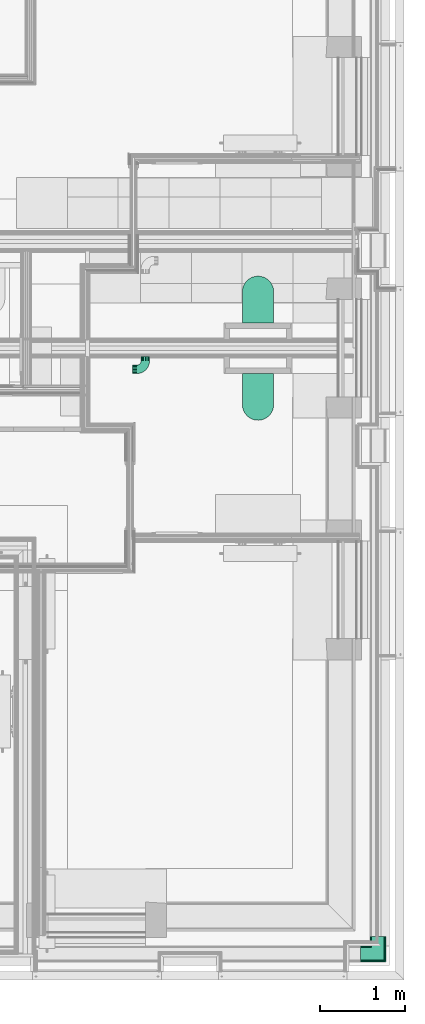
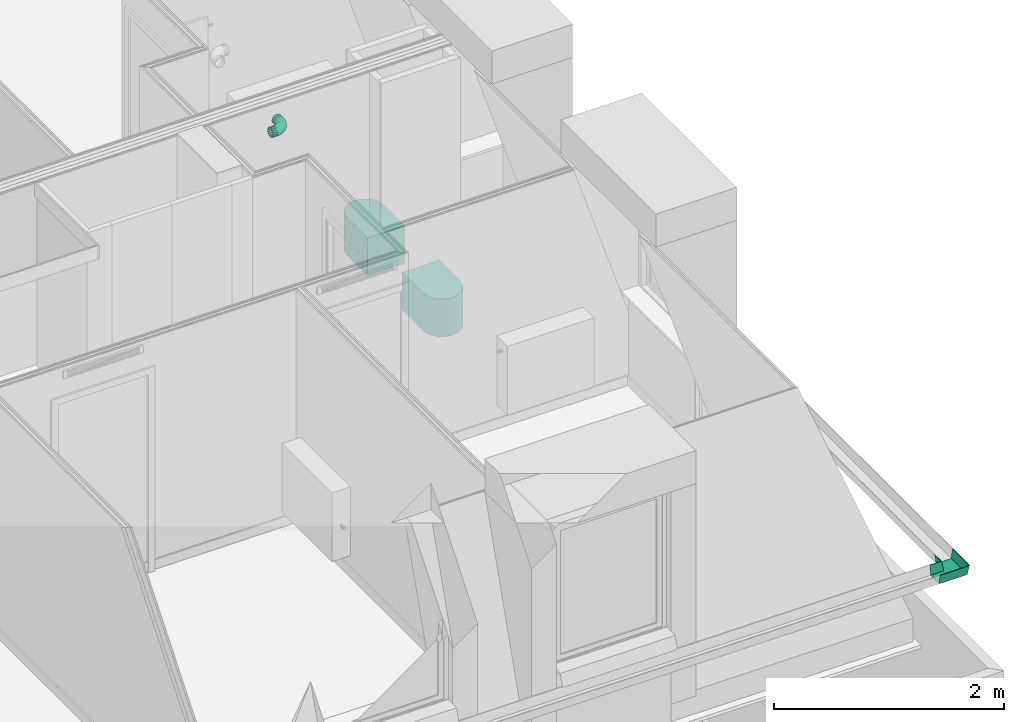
# One storey, part 161 of 169: 2 flow fittings, 2 flow terminals.
"""IFC2X3 building model written with IfcOpenShell, lengths in metres."""

from ifc_helpers import new_model, entity, si_unit, converted_unit, derived_unit, money_unit, direction, frame, origin_with_axes, place, context, subcontext, project, spatial, open_shell, faceted_brep, surface_model, material, type_object, element, save


model = new_model("IFC2X3")

# Units and contexts
model_context = context("Model", 3, precision=1e-05, world=origin_with_axes(), true_north=direction((0.0, 1.0)))
body_context = subcontext(model_context, "Body", "Model", "MODEL_VIEW", scale=1.0)
ifc_project = project(units=[si_unit("LENGTHUNIT", "METRE"), si_unit("AREAUNIT", "SQUARE_METRE"), si_unit("VOLUMEUNIT", "CUBIC_METRE"), si_unit("ABSORBEDDOSEUNIT", "GRAY"), si_unit("AMOUNTOFSUBSTANCEUNIT", "MOLE"), si_unit("DOSEEQUIVALENTUNIT", "SIEVERT"), si_unit("ELECTRICCAPACITANCEUNIT", "FARAD"), si_unit("ELECTRICCHARGEUNIT", "COULOMB"), si_unit("ELECTRICCONDUCTANCEUNIT", "SIEMENS"), si_unit("ELECTRICCURRENTUNIT", "AMPERE"), si_unit("ELECTRICRESISTANCEUNIT", "OHM"), si_unit("ELECTRICVOLTAGEUNIT", "VOLT"), si_unit("ENERGYUNIT", "JOULE"), si_unit("FORCEUNIT", "NEWTON"), si_unit("FREQUENCYUNIT", "HERTZ"), si_unit("ILLUMINANCEUNIT", "LUX"), si_unit("INDUCTANCEUNIT", "HENRY"), si_unit("LUMINOUSFLUXUNIT", "LUMEN"), si_unit("LUMINOUSINTENSITYUNIT", "CANDELA"), si_unit("MAGNETICFLUXDENSITYUNIT", "TESLA"), si_unit("MAGNETICFLUXUNIT", "WEBER"), si_unit("MASSUNIT", "GRAM"), converted_unit("PLANEANGLEUNIT", "degree", entity("IfcReal", 0.0174532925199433), si_unit("PLANEANGLEUNIT", "RADIAN"), dimensions=[0, 0, 0, 0, 0, 0, 0]), si_unit("POWERUNIT", "WATT"), si_unit("PRESSUREUNIT", "PASCAL"), si_unit("RADIOACTIVITYUNIT", "BECQUEREL"), si_unit("SOLIDANGLEUNIT", "STERADIAN"), si_unit("THERMODYNAMICTEMPERATUREUNIT", "KELVIN"), si_unit("TIMEUNIT", "SECOND"), derived_unit("ACCELERATIONUNIT", [(si_unit("LENGTHUNIT", "METRE"), 1), (si_unit("TIMEUNIT", "SECOND"), -2)]), derived_unit("ANGULARVELOCITYUNIT", [(converted_unit("PLANEANGLEUNIT", "degree", entity("IfcReal", 0.0174532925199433), si_unit("PLANEANGLEUNIT", "RADIAN"), dimensions=[0, 0, 0, 0, 0, 0, 0]), 1), (si_unit("TIMEUNIT", "SECOND"), -1)]), derived_unit("CURVATUREUNIT", [(converted_unit("PLANEANGLEUNIT", "degree", entity("IfcReal", 0.0174532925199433), si_unit("PLANEANGLEUNIT", "RADIAN"), dimensions=[0, 0, 0, 0, 0, 0, 0]), 1), (si_unit("LENGTHUNIT", "METRE"), -1)]), derived_unit("DYNAMICVISCOSITYUNIT", [(si_unit("PRESSUREUNIT", "PASCAL"), 1), (si_unit("TIMEUNIT", "SECOND"), 1)]), derived_unit("HEATFLUXDENSITYUNIT", [(si_unit("POWERUNIT", "WATT"), 1), (si_unit("LENGTHUNIT", "METRE"), -2)]), derived_unit("HEATINGVALUEUNIT", [(si_unit("ENERGYUNIT", "JOULE"), 1), (si_unit("MASSUNIT", "GRAM"), -1)]), derived_unit("INTEGERCOUNTRATEUNIT", [(si_unit("TIMEUNIT", "SECOND"), -1)]), derived_unit("IONCONCENTRATIONUNIT", [(si_unit("MASSUNIT", "GRAM"), 1), (si_unit("VOLUMEUNIT", "CUBIC_METRE"), -1)]), derived_unit("ISOTHERMALMOISTURECAPACITYUNIT", [(si_unit("VOLUMEUNIT", "CUBIC_METRE"), 1), (si_unit("MASSUNIT", "GRAM"), -1)]), derived_unit("KINEMATICVISCOSITYUNIT", [(si_unit("AREAUNIT", "SQUARE_METRE"), 1), (si_unit("TIMEUNIT", "SECOND"), -1)]), derived_unit("LINEARFORCEUNIT", [(si_unit("FORCEUNIT", "NEWTON"), 1), (si_unit("LENGTHUNIT", "METRE"), -1)]), derived_unit("LINEARMOMENTUNIT", [(si_unit("FORCEUNIT", "NEWTON"), 1), (si_unit("LENGTHUNIT", "METRE"), -1)]), derived_unit("LINEARSTIFFNESSUNIT", [(si_unit("FORCEUNIT", "NEWTON"), 1), (si_unit("LENGTHUNIT", "METRE"), -1)]), derived_unit("LINEARVELOCITYUNIT", [(si_unit("LENGTHUNIT", "METRE"), 1), (si_unit("TIMEUNIT", "SECOND"), -1)]), derived_unit("LUMINOUSINTENSITYDISTRIBUTIONUNIT", [(si_unit("LUMINOUSINTENSITYUNIT", "CANDELA"), 1), (si_unit("LUMINOUSFLUXUNIT", "LUMEN"), -1)]), derived_unit("MASSDENSITYUNIT", [(si_unit("MASSUNIT", "GRAM"), 1), (si_unit("VOLUMEUNIT", "CUBIC_METRE"), -1)]), derived_unit("MASSFLOWRATEUNIT", [(si_unit("MASSUNIT", "GRAM"), 1), (si_unit("TIMEUNIT", "SECOND"), -1)]), derived_unit("MASSPERLENGTHUNIT", [(si_unit("MASSUNIT", "GRAM"), 1), (si_unit("LENGTHUNIT", "METRE"), -1)]), derived_unit("MODULUSOFELASTICITYUNIT", [(si_unit("FORCEUNIT", "NEWTON"), 1), (si_unit("AREAUNIT", "SQUARE_METRE"), -1)]), derived_unit("MODULUSOFLINEARSUBGRADEREACTIONUNIT", [(si_unit("FORCEUNIT", "NEWTON"), 1), (si_unit("LENGTHUNIT", "METRE"), -2)]), derived_unit("MODULUSOFROTATIONALSUBGRADEREACTIONUNIT", [(si_unit("FORCEUNIT", "NEWTON"), 1), (si_unit("LENGTHUNIT", "METRE"), 1)]), derived_unit("MODULUSOFSUBGRADEREACTIONUNIT", [(si_unit("FORCEUNIT", "NEWTON"), 1), (si_unit("VOLUMEUNIT", "CUBIC_METRE"), -1)]), derived_unit("MOISTUREDIFFUSIVITYUNIT", [(si_unit("VOLUMEUNIT", "CUBIC_METRE"), 1), (si_unit("TIMEUNIT", "SECOND"), -1)]), derived_unit("MOLECULARWEIGHTUNIT", [(si_unit("MASSUNIT", "GRAM"), 1), (si_unit("AMOUNTOFSUBSTANCEUNIT", "MOLE"), -1)]), derived_unit("PLANARFORCEUNIT", [(si_unit("FORCEUNIT", "NEWTON"), 1), (si_unit("LENGTHUNIT", "METRE"), -2)]), derived_unit("ROTATIONALFREQUENCYUNIT", [(si_unit("TIMEUNIT", "SECOND"), -1)]), derived_unit("ROTATIONALMASSUNIT", [(si_unit("MASSUNIT", "GRAM"), 1), (si_unit("LENGTHUNIT", "METRE"), 2)]), derived_unit("ROTATIONALSTIFFNESSUNIT", [(si_unit("FORCEUNIT", "NEWTON"), 1), (si_unit("LENGTHUNIT", "METRE"), 1), (converted_unit("PLANEANGLEUNIT", "degree", entity("IfcReal", 0.0174532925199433), si_unit("PLANEANGLEUNIT", "RADIAN"), dimensions=[0, 0, 0, 0, 0, 0, 0]), -1)]), derived_unit("SECTIONAREAINTEGRALUNIT", [(si_unit("LENGTHUNIT", "METRE"), 5)]), derived_unit("SECTIONMODULUSUNIT", [(si_unit("LENGTHUNIT", "METRE"), 3)]), derived_unit("SHEARMODULUSUNIT", [(si_unit("FORCEUNIT", "NEWTON"), 1), (si_unit("AREAUNIT", "SQUARE_METRE"), -1)]), derived_unit("SOUNDPOWERUNIT", [(si_unit("ENERGYUNIT", "JOULE"), 1), (si_unit("TIMEUNIT", "SECOND"), -1)]), derived_unit("SPECIFICHEATCAPACITYUNIT", [(si_unit("FORCEUNIT", "NEWTON"), 1), (si_unit("MASSUNIT", "GRAM"), -1), (si_unit("THERMODYNAMICTEMPERATUREUNIT", "KELVIN"), -1)]), derived_unit("TEMPERATUREGRADIENTUNIT", [(si_unit("THERMODYNAMICTEMPERATUREUNIT", "KELVIN"), 1), (si_unit("LENGTHUNIT", "METRE"), -1)]), derived_unit("THERMALADMITTANCEUNIT", [(si_unit("POWERUNIT", "WATT"), 1), (si_unit("AREAUNIT", "SQUARE_METRE"), -1), (si_unit("THERMODYNAMICTEMPERATUREUNIT", "KELVIN"), -1)]), derived_unit("THERMALCONDUCTANCEUNIT", [(si_unit("POWERUNIT", "WATT"), 1), (si_unit("LENGTHUNIT", "METRE"), -1), (si_unit("THERMODYNAMICTEMPERATUREUNIT", "KELVIN"), -1)]), derived_unit("THERMALEXPANSIONCOEFFICIENTUNIT", [(si_unit("THERMODYNAMICTEMPERATUREUNIT", "KELVIN"), -1)]), derived_unit("THERMALRESISTANCEUNIT", [(si_unit("AREAUNIT", "SQUARE_METRE"), 1), (si_unit("POWERUNIT", "WATT"), -1)]), derived_unit("THERMALTRANSMITTANCEUNIT", [(si_unit("POWERUNIT", "WATT"), 1), (si_unit("AREAUNIT", "SQUARE_METRE"), -1), (si_unit("THERMODYNAMICTEMPERATUREUNIT", "KELVIN"), -1)]), derived_unit("TORQUEUNIT", [(si_unit("FORCEUNIT", "NEWTON"), 1), (si_unit("LENGTHUNIT", "METRE"), 1)]), derived_unit("VAPORPERMEABILITYUNIT", [(si_unit("MASSUNIT", "GRAM"), 1), (si_unit("TIMEUNIT", "SECOND"), -1)]), derived_unit("VOLUMETRICFLOWRATEUNIT", [(si_unit("VOLUMEUNIT", "CUBIC_METRE"), 1), (si_unit("TIMEUNIT", "SECOND"), -1)]), derived_unit("WARPINGCONSTANTUNIT", [(si_unit("LENGTHUNIT", "METRE"), 6)]), derived_unit("WARPINGMOMENTUNIT", [(si_unit("FORCEUNIT", "NEWTON"), 1), (si_unit("LENGTHUNIT", "METRE"), 2)]), money_unit("GBP")], contexts=[model_context])

# Site, building, storey, space
site_placement = place(None, origin_with_axes())
site = spatial("IfcSite", under=ifc_project, at=site_placement, Name="Site", CompositionType="ELEMENT")
building_placement = place(site_placement, origin_with_axes())
building = spatial("IfcBuilding", under=site, at=building_placement, Name="Building01", CompositionType="ELEMENT")
storey_placement = place(building_placement, frame((0.0, 0.0, 5.15), z_axis=(0.0, 0.0, 1.0), x_axis=(1.0, 0.0, 0.0)))
storey = spatial("IfcBuildingStorey", under=building, at=storey_placement, Name="1F", CompositionType="ELEMENT", Elevation=5.15)
space_1_placement = place(storey_placement, frame((23.258821, 7.349915, 9.86), z_axis=(0.0, 0.0, 1.0), x_axis=(0.0, -1.0, 0.0)))
space_1 = spatial("IfcSpace", under=storey, at=space_1_placement, Name="bath", CompositionType="ELEMENT", InteriorOrExteriorSpace="NOTDEFINED")

# Flow fittings
ifc_material_1 = material(Name="M_BSUK_Ventilation")
duct_fitting_type = type_object("IfcDuctFittingType", Name="M-Roundelbow-DefaultRound", PredefinedType="BEND")
placement = place(building_placement, origin_with_axes())
flow_fitting_1_placement = place(placement, frame((23.93, 7.299939, 17.28), z_axis=(1.0, 0.0, 0.0), x_axis=(0.0, -1.0, 0.0)))
element("IfcFlowFitting", 1, at=flow_fitting_1_placement, inside=space_1, type_object=duct_fitting_type, material=ifc_material_1, Name="M-Roundelbow-DefaultRound", ObjectType="M-Roundelbow-DefaultRound", context=body_context, shape_type="SurfaceModel", body=[
    surface_model("IfcShellBasedSurfaceModel", [(0.008112, -0.01349, -0.048784), (0.0, -0.01349, -0.048146), (0.0, 0.0, -0.05), (0.007822, 0.0, -0.050616), (0.016024, -0.01349, -0.050684), (0.015451, 0.0, -0.052447), (0.023541, -0.01349, -0.053798), (0.0227, 0.0, -0.05545), (0.030479, -0.01349, -0.058049), (0.029389, 0.0, -0.059549), (0.036666, -0.01349, -0.063334), (0.035355, 0.0, -0.064645), (0.041951, -0.01349, -0.069521), (0.040451, 0.0, -0.070611), (0.046202, -0.01349, -0.076459), (0.04455, 0.0, -0.0773), (0.049316, -0.01349, -0.083976), (0.047553, 0.0, -0.084549), (0.051216, -0.01349, -0.091888), (0.049384, 0.0, -0.092178), (0.051854, -0.01349, -0.1), (0.05, 0.0, -0.1), (0.00896, -0.025979, -0.043426), (0.0, -0.025979, -0.042721), (0.0177, -0.025979, -0.045524), (0.026004, -0.025979, -0.048964), (0.033668, -0.025979, -0.05366), (0.040502, -0.025979, -0.059498), (0.04634, -0.025979, -0.066332), (0.051036, -0.025979, -0.073996), (0.054476, -0.025979, -0.0823), (0.056574, -0.025979, -0.09104), (0.057279, -0.025979, -0.1), (0.010305, -0.036542, -0.034939), (0.0, -0.036542, -0.034128), (0.020356, -0.036542, -0.037352), (0.029905, -0.036542, -0.041307), (0.038719, -0.036542, -0.046708), (0.046579, -0.036542, -0.053421), (0.053292, -0.036542, -0.061281), (0.058693, -0.036542, -0.070095), (0.062648, -0.036542, -0.079644), (0.065061, -0.036542, -0.089695), (0.065872, -0.036542, -0.1), (0.012045, -0.044394, -0.023951), (0.0, -0.044394, -0.023003), (0.023793, -0.044394, -0.026772), (0.034956, -0.044394, -0.031395), (0.045258, -0.044394, -0.037708), (0.054445, -0.044394, -0.045555), (0.062292, -0.044394, -0.054742), (0.068605, -0.044394, -0.065044), (0.073228, -0.044394, -0.076207), (0.076049, -0.044394, -0.087955), (0.076997, -0.044394, -0.1), (0.014052, -0.048954, -0.011279), (0.0, -0.048954, -0.010173), (0.027758, -0.048954, -0.014569), (0.040781, -0.048954, -0.019963), (0.052799, -0.048954, -0.027328), (0.063517, -0.048954, -0.036483), (0.072672, -0.048954, -0.047201), (0.080037, -0.048954, -0.059219), (0.085431, -0.048954, -0.072242), (0.088721, -0.048954, -0.085948), (0.089827, -0.048954, -0.1), (0.016177, -0.049883, 0.002139), (0.0, -0.049883, 0.003412), (0.031956, -0.049883, -0.001649), (0.046948, -0.049883, -0.007859), (0.060784, -0.049883, -0.016338), (0.073123, -0.049883, -0.026877), (0.083662, -0.049883, -0.039216), (0.092141, -0.049883, -0.053052), (0.098351, -0.049883, -0.068044), (0.102139, -0.049883, -0.083823), (0.103412, -0.049883, -0.1), (0.018263, -0.047113, 0.015307), (0.0, -0.047113, 0.016744), (0.036076, -0.047113, 0.01103), (0.053001, -0.047113, 0.00402), (0.06862, -0.047113, -0.005552), (0.08255, -0.047113, -0.01745), (0.094448, -0.047113, -0.03138), (0.10402, -0.047113, -0.046999), (0.11103, -0.047113, -0.063924), (0.115307, -0.047113, -0.081737), (0.116744, -0.047113, -0.1), (0.020154, -0.040848, 0.027248), (0.0, -0.040848, 0.028834), (0.039812, -0.040848, 0.022528), (0.058489, -0.040848, 0.014792), (0.075727, -0.040848, 0.004229), (0.091099, -0.040848, -0.008901), (0.104229, -0.040848, -0.024273), (0.114792, -0.040848, -0.041511), (0.122528, -0.040848, -0.060188), (0.127248, -0.040848, -0.079846), (0.128834, -0.040848, -0.1), (0.021711, -0.031554, 0.037077), (0.0, -0.031554, 0.038786), (0.042887, -0.031554, 0.031993), (0.063007, -0.031554, 0.023659), (0.081576, -0.031554, 0.01228), (0.098136, -0.031554, -0.001864), (0.11228, -0.031554, -0.018424), (0.123659, -0.031554, -0.036993), (0.131993, -0.031554, -0.057113), (0.137077, -0.031554, -0.078289), (0.138786, -0.031554, -0.1), (0.022818, -0.01992, 0.044065), (0.0, -0.01992, 0.045861), (0.045073, -0.01992, 0.038722), (0.066219, -0.01992, 0.029963), (0.085735, -0.01992, 0.018004), (0.103139, -0.01992, 0.003139), (0.118004, -0.01992, -0.014265), (0.129963, -0.01992, -0.033781), (0.138722, -0.01992, -0.054927), (0.144065, -0.01992, -0.077182), (0.145861, -0.01992, -0.1), (0.023392, -0.006808, 0.047693), (0.0, -0.006808, 0.049534), (0.046209, -0.006808, 0.042216), (0.067887, -0.006808, 0.033236), (0.087894, -0.006808, 0.020976), (0.105737, -0.006808, 0.005737), (0.120976, -0.006808, -0.012106), (0.133236, -0.006808, -0.032113), (0.142216, -0.006808, -0.053791), (0.147693, -0.006808, -0.076608), (0.149534, -0.006808, -0.1), (0.023392, 0.006808, 0.047693), (0.0, 0.006808, 0.049534), (0.046209, 0.006808, 0.042216), (0.067887, 0.006808, 0.033236), (0.087894, 0.006808, 0.020976), (0.105737, 0.006808, 0.005737), (0.120976, 0.006808, -0.012106), (0.133236, 0.006808, -0.032113), (0.142216, 0.006808, -0.053791), (0.147693, 0.006808, -0.076608), (0.149534, 0.006808, -0.1), (0.022818, 0.01992, 0.044065), (0.0, 0.01992, 0.045861), (0.045073, 0.01992, 0.038722), (0.066219, 0.01992, 0.029963), (0.085735, 0.01992, 0.018004), (0.103139, 0.01992, 0.003139), (0.118004, 0.01992, -0.014265), (0.129963, 0.01992, -0.033781), (0.138722, 0.01992, -0.054927), (0.144065, 0.01992, -0.077182), (0.145861, 0.01992, -0.1), (0.021711, 0.031554, 0.037077), (0.0, 0.031554, 0.038786), (0.042887, 0.031554, 0.031993), (0.063007, 0.031554, 0.023659), (0.081576, 0.031554, 0.01228), (0.098136, 0.031554, -0.001864), (0.11228, 0.031554, -0.018424), (0.123659, 0.031554, -0.036993), (0.131993, 0.031554, -0.057113), (0.137077, 0.031554, -0.078289), (0.138786, 0.031554, -0.1), (0.020154, 0.040848, 0.027248), (0.0, 0.040848, 0.028834), (0.039812, 0.040848, 0.022528), (0.058489, 0.040848, 0.014792), (0.075727, 0.040848, 0.004229), (0.091099, 0.040848, -0.008901), (0.104229, 0.040848, -0.024273), (0.114792, 0.040848, -0.041511), (0.122528, 0.040848, -0.060188), (0.127248, 0.040848, -0.079846), (0.128834, 0.040848, -0.1), (0.018263, 0.047113, 0.015307), (0.0, 0.047113, 0.016744), (0.036076, 0.047113, 0.01103), (0.053001, 0.047113, 0.00402), (0.06862, 0.047113, -0.005552), (0.08255, 0.047113, -0.01745), (0.094448, 0.047113, -0.03138), (0.10402, 0.047113, -0.046999), (0.11103, 0.047113, -0.063924), (0.115307, 0.047113, -0.081737), (0.116744, 0.047113, -0.1), (0.016177, 0.049883, 0.002139), (0.0, 0.049883, 0.003412), (0.031956, 0.049883, -0.001649), (0.046948, 0.049883, -0.007859), (0.060784, 0.049883, -0.016338), (0.073123, 0.049883, -0.026877), (0.083662, 0.049883, -0.039216), (0.092141, 0.049883, -0.053052), (0.098351, 0.049883, -0.068044), (0.102139, 0.049883, -0.083823), (0.103412, 0.049883, -0.1), (0.014052, 0.048954, -0.011279), (0.0, 0.048954, -0.010173), (0.027758, 0.048954, -0.014569), (0.040781, 0.048954, -0.019963), (0.052799, 0.048954, -0.027328), (0.063517, 0.048954, -0.036483), (0.072672, 0.048954, -0.047201), (0.080037, 0.048954, -0.059219), (0.085431, 0.048954, -0.072242), (0.088721, 0.048954, -0.085948), (0.089827, 0.048954, -0.1), (0.012045, 0.044394, -0.023951), (0.0, 0.044394, -0.023003), (0.023793, 0.044394, -0.026772), (0.034956, 0.044394, -0.031395), (0.045258, 0.044394, -0.037708), (0.054445, 0.044394, -0.045555), (0.062292, 0.044394, -0.054742), (0.068605, 0.044394, -0.065044), (0.073228, 0.044394, -0.076207), (0.076049, 0.044394, -0.087955), (0.076997, 0.044394, -0.1), (0.010305, 0.036542, -0.034939), (0.0, 0.036542, -0.034128), (0.020356, 0.036542, -0.037352), (0.029905, 0.036542, -0.041307), (0.038719, 0.036542, -0.046708), (0.046579, 0.036542, -0.053421), (0.053292, 0.036542, -0.061281), (0.058693, 0.036542, -0.070095), (0.062648, 0.036542, -0.079644), (0.065061, 0.036542, -0.089695), (0.065872, 0.036542, -0.1), (0.00896, 0.025979, -0.043426), (0.0, 0.025979, -0.042721), (0.0177, 0.025979, -0.045524), (0.026004, 0.025979, -0.048964), (0.033668, 0.025979, -0.05366), (0.040502, 0.025979, -0.059498), (0.04634, 0.025979, -0.066332), (0.051036, 0.025979, -0.073996), (0.054476, 0.025979, -0.0823), (0.056574, 0.025979, -0.09104), (0.057279, 0.025979, -0.1), (0.008112, 0.01349, -0.048784), (0.0, 0.01349, -0.048146), (0.016024, 0.01349, -0.050684), (0.023541, 0.01349, -0.053798), (0.030479, 0.01349, -0.058049), (0.036666, 0.01349, -0.063334), (0.041951, 0.01349, -0.069521), (0.046202, 0.01349, -0.076459), (0.049316, 0.01349, -0.083976), (0.051216, 0.01349, -0.091888), (0.051854, 0.01349, -0.1), (-0.05, 0.0, -0.05), (0.0, -0.019134, -0.046194), (-0.05, -0.019134, -0.046194), (0.0, -0.035355, -0.035355), (-0.05, -0.035355, -0.035355), (0.0, -0.046194, -0.019134), (-0.05, -0.046194, -0.019134), (0.0, -0.05, 0.0), (-0.05, -0.05, 0.0), (0.0, -0.046194, 0.019134), (-0.05, -0.046194, 0.019134), (0.0, -0.035355, 0.035355), (-0.05, -0.035355, 0.035355), (0.0, -0.019134, 0.046194), (-0.05, -0.019134, 0.046194), (0.0, 0.0, 0.05), (-0.05, 0.0, 0.05), (0.0, 0.019134, 0.046194), (-0.05, 0.019134, 0.046194), (0.0, 0.035355, 0.035355), (-0.05, 0.035355, 0.035355), (0.0, 0.046194, 0.019134), (-0.05, 0.046194, 0.019134), (0.0, 0.05, 0.0), (-0.05, 0.05, 0.0), (0.0, 0.046194, -0.019134), (-0.05, 0.046194, -0.019134), (0.0, 0.035355, -0.035355), (-0.05, 0.035355, -0.035355), (0.0, 0.019134, -0.046194), (-0.05, 0.019134, -0.046194), (0.05, 0.0, -0.15), (0.053806, 0.019134, -0.1), (0.053806, 0.019134, -0.15), (0.064645, 0.035355, -0.1), (0.064645, 0.035355, -0.15), (0.080866, 0.046194, -0.1), (0.080866, 0.046194, -0.15), (0.1, 0.05, -0.1), (0.1, 0.05, -0.15), (0.119134, 0.046194, -0.1), (0.119134, 0.046194, -0.15), (0.135355, 0.035355, -0.1), (0.135355, 0.035355, -0.15), (0.146194, 0.019134, -0.1), (0.146194, 0.019134, -0.15), (0.15, 0.0, -0.1), (0.15, 0.0, -0.15), (0.146194, -0.019134, -0.1), (0.146194, -0.019134, -0.15), (0.135355, -0.035355, -0.1), (0.135355, -0.035355, -0.15), (0.119134, -0.046194, -0.1), (0.119134, -0.046194, -0.15), (0.1, -0.05, -0.1), (0.1, -0.05, -0.15), (0.080866, -0.046194, -0.1), (0.080866, -0.046194, -0.15), (0.064645, -0.035355, -0.1), (0.064645, -0.035355, -0.15), (0.053806, -0.019134, -0.1), (0.053806, -0.019134, -0.15)], [open_shell([[[0, 1, 2, 3]], [[4, 0, 3, 5]], [[6, 4, 5, 7]], [[8, 6, 7, 9]], [[10, 8, 9, 11]], [[12, 10, 11, 13]], [[14, 12, 13, 15]], [[16, 14, 15, 17]], [[18, 16, 17, 19]], [[20, 18, 19, 21]], [[22, 23, 1, 0]], [[24, 22, 0, 4]], [[25, 24, 4, 6]], [[26, 25, 6, 8]], [[27, 26, 8, 10]], [[28, 27, 10, 12]], [[29, 28, 12, 14]], [[30, 29, 14, 16]], [[31, 30, 16, 18]], [[32, 31, 18, 20]], [[33, 34, 23, 22]], [[35, 33, 22, 24]], [[36, 35, 24, 25]], [[37, 36, 25, 26]], [[38, 37, 26, 27]], [[39, 38, 27, 28]], [[40, 39, 28, 29]], [[41, 40, 29, 30]], [[42, 41, 30, 31]], [[43, 42, 31, 32]], [[44, 45, 34, 33]], [[46, 44, 33, 35]], [[47, 46, 35, 36]], [[48, 47, 36, 37]], [[49, 48, 37, 38]], [[50, 49, 38, 39]], [[51, 50, 39, 40]], [[52, 51, 40, 41]], [[53, 52, 41, 42]], [[54, 53, 42, 43]], [[55, 56, 45, 44]], [[57, 55, 44, 46]], [[58, 57, 46, 47]], [[59, 58, 47, 48]], [[60, 59, 48, 49]], [[61, 60, 49, 50]], [[62, 61, 50, 51]], [[63, 62, 51, 52]], [[64, 63, 52, 53]], [[65, 64, 53, 54]], [[66, 67, 56, 55]], [[68, 66, 55, 57]], [[69, 68, 57, 58]], [[70, 69, 58, 59]], [[71, 70, 59, 60]], [[72, 71, 60, 61]], [[73, 72, 61, 62]], [[74, 73, 62, 63]], [[75, 74, 63, 64]], [[76, 75, 64, 65]], [[77, 78, 67, 66]], [[79, 77, 66, 68]], [[80, 79, 68, 69]], [[81, 80, 69, 70]], [[82, 81, 70, 71]], [[83, 82, 71, 72]], [[84, 83, 72, 73]], [[85, 84, 73, 74]], [[86, 85, 74, 75]], [[87, 86, 75, 76]], [[88, 89, 78, 77]], [[90, 88, 77, 79]], [[91, 90, 79, 80]], [[92, 91, 80, 81]], [[93, 92, 81, 82]], [[94, 93, 82, 83]], [[95, 94, 83, 84]], [[96, 95, 84, 85]], [[97, 96, 85, 86]], [[98, 97, 86, 87]], [[99, 100, 89, 88]], [[101, 99, 88, 90]], [[102, 101, 90, 91]], [[103, 102, 91, 92]], [[104, 103, 92, 93]], [[105, 104, 93, 94]], [[106, 105, 94, 95]], [[107, 106, 95, 96]], [[108, 107, 96, 97]], [[109, 108, 97, 98]], [[110, 111, 100, 99]], [[112, 110, 99, 101]], [[113, 112, 101, 102]], [[114, 113, 102, 103]], [[115, 114, 103, 104]], [[116, 115, 104, 105]], [[117, 116, 105, 106]], [[118, 117, 106, 107]], [[119, 118, 107, 108]], [[120, 119, 108, 109]], [[121, 122, 111, 110]], [[123, 121, 110, 112]], [[124, 123, 112, 113]], [[125, 124, 113, 114]], [[126, 125, 114, 115]], [[127, 126, 115, 116]], [[128, 127, 116, 117]], [[129, 128, 117, 118]], [[130, 129, 118, 119]], [[131, 130, 119, 120]], [[132, 133, 122, 121]], [[134, 132, 121, 123]], [[135, 134, 123, 124]], [[136, 135, 124, 125]], [[137, 136, 125, 126]], [[138, 137, 126, 127]], [[139, 138, 127, 128]], [[140, 139, 128, 129]], [[141, 140, 129, 130]], [[142, 141, 130, 131]], [[143, 144, 133, 132]], [[145, 143, 132, 134]], [[146, 145, 134, 135]], [[147, 146, 135, 136]], [[148, 147, 136, 137]], [[149, 148, 137, 138]], [[150, 149, 138, 139]], [[151, 150, 139, 140]], [[152, 151, 140, 141]], [[153, 152, 141, 142]], [[154, 155, 144, 143]], [[156, 154, 143, 145]], [[157, 156, 145, 146]], [[158, 157, 146, 147]], [[159, 158, 147, 148]], [[160, 159, 148, 149]], [[161, 160, 149, 150]], [[162, 161, 150, 151]], [[163, 162, 151, 152]], [[164, 163, 152, 153]], [[165, 166, 155, 154]], [[167, 165, 154, 156]], [[168, 167, 156, 157]], [[169, 168, 157, 158]], [[170, 169, 158, 159]], [[171, 170, 159, 160]], [[172, 171, 160, 161]], [[173, 172, 161, 162]], [[174, 173, 162, 163]], [[175, 174, 163, 164]], [[176, 177, 166, 165]], [[178, 176, 165, 167]], [[179, 178, 167, 168]], [[180, 179, 168, 169]], [[181, 180, 169, 170]], [[182, 181, 170, 171]], [[183, 182, 171, 172]], [[184, 183, 172, 173]], [[185, 184, 173, 174]], [[186, 185, 174, 175]], [[187, 188, 177, 176]], [[189, 187, 176, 178]], [[190, 189, 178, 179]], [[191, 190, 179, 180]], [[192, 191, 180, 181]], [[193, 192, 181, 182]], [[194, 193, 182, 183]], [[195, 194, 183, 184]], [[196, 195, 184, 185]], [[197, 196, 185, 186]], [[198, 199, 188, 187]], [[200, 198, 187, 189]], [[201, 200, 189, 190]], [[202, 201, 190, 191]], [[203, 202, 191, 192]], [[204, 203, 192, 193]], [[205, 204, 193, 194]], [[206, 205, 194, 195]], [[207, 206, 195, 196]], [[208, 207, 196, 197]], [[209, 210, 199, 198]], [[211, 209, 198, 200]], [[212, 211, 200, 201]], [[213, 212, 201, 202]], [[214, 213, 202, 203]], [[215, 214, 203, 204]], [[216, 215, 204, 205]], [[217, 216, 205, 206]], [[218, 217, 206, 207]], [[219, 218, 207, 208]], [[220, 221, 210, 209]], [[222, 220, 209, 211]], [[223, 222, 211, 212]], [[224, 223, 212, 213]], [[225, 224, 213, 214]], [[226, 225, 214, 215]], [[227, 226, 215, 216]], [[228, 227, 216, 217]], [[229, 228, 217, 218]], [[230, 229, 218, 219]], [[231, 232, 221, 220]], [[233, 231, 220, 222]], [[234, 233, 222, 223]], [[235, 234, 223, 224]], [[236, 235, 224, 225]], [[237, 236, 225, 226]], [[238, 237, 226, 227]], [[239, 238, 227, 228]], [[240, 239, 228, 229]], [[241, 240, 229, 230]], [[242, 243, 232, 231]], [[244, 242, 231, 233]], [[245, 244, 233, 234]], [[246, 245, 234, 235]], [[247, 246, 235, 236]], [[248, 247, 236, 237]], [[249, 248, 237, 238]], [[250, 249, 238, 239]], [[251, 250, 239, 240]], [[252, 251, 240, 241]], [[3, 2, 243, 242]], [[5, 3, 242, 244]], [[7, 5, 244, 245]], [[9, 7, 245, 246]], [[11, 9, 246, 247]], [[13, 11, 247, 248]], [[15, 13, 248, 249]], [[17, 15, 249, 250]], [[19, 17, 250, 251]], [[21, 19, 251, 252]], [[253, 2, 254, 255]], [[255, 254, 256, 257]], [[257, 256, 258, 259]], [[259, 258, 260, 261]], [[261, 260, 262, 263]], [[263, 262, 264, 265]], [[265, 264, 266, 267]], [[267, 266, 268, 269]], [[269, 268, 270, 271]], [[271, 270, 272, 273]], [[273, 272, 274, 275]], [[275, 274, 276, 277]], [[277, 276, 278, 279]], [[279, 278, 280, 281]], [[281, 280, 282, 283]], [[283, 282, 2, 253]], [[284, 21, 285, 286]], [[286, 285, 287, 288]], [[288, 287, 289, 290]], [[290, 289, 291, 292]], [[292, 291, 293, 294]], [[294, 293, 295, 296]], [[296, 295, 297, 298]], [[298, 297, 299, 300]], [[300, 299, 301, 302]], [[302, 301, 303, 304]], [[304, 303, 305, 306]], [[306, 305, 307, 308]], [[308, 307, 309, 310]], [[310, 309, 311, 312]], [[312, 311, 313, 314]], [[314, 313, 21, 284]]])]),
])
ifc_material_2 = material(Name="A_BSUK_RainwaterDrainageSystems")
pipe_fitting_type = type_object("IfcPipeFittingType", Name="A-RainwaterDrainageSystems-GutterCorner", PredefinedType="NOTDEFINED")
flow_fitting_2_placement = place(storey_placement, frame((26.465654, 0.514347, 10.629268), z_axis=(0.0, 0.0, 1.0), x_axis=(-1.0, 0.0, 0.0)))
element("IfcFlowFitting", 2, at=flow_fitting_2_placement, inside=storey, type_object=pipe_fitting_type, material=ifc_material_2, Name="A-RainwaterDrainageSystems-GutterCorner", ObjectType="A-RainwaterDrainageSystems-GutterCorner", context=body_context, shape_type="Brep", body=[
    faceted_brep([(-0.111195, 1e-06, 0.100732), (-0.118241, 1e-06, 0.100732), (-0.131294, 1e-06, 0.001588), (-0.279902, 1e-06, 0.001588), (-0.292954, 1e-06, 0.100732), (-0.3, 1e-06, 0.100732), (-0.3, 1e-06, 0.099145), (-0.294346, 1e-06, 0.099145), (-0.281294, 1e-06, 0.0), (-0.129902, 1e-06, 0.0), (-0.116849, 1e-06, 0.099145), (-0.111195, 1e-06, 0.099145), (0.0, 0.111195, 0.099145), (0.0, 0.116849, 0.099145), (0.0, 0.129902, 0.0), (0.0, 0.281294, 0.0), (0.0, 0.294347, 0.099145), (0.0, 0.300001, 0.099145), (0.0, 0.300001, 0.100732), (0.0, 0.292954, 0.100732), (0.0, 0.279902, 0.001588), (0.0, 0.131294, 0.001588), (0.0, 0.118241, 0.100732), (0.0, 0.111195, 0.100732), (-0.111195, 0.111195, 0.099145), (-0.111195, 0.111195, 0.100732), (-0.118241, 0.118241, 0.100732), (-0.131294, 0.131294, 0.001588), (-0.279902, 0.279902, 0.001588), (-0.292954, 0.292954, 0.100732), (-0.3, 0.300001, 0.100732), (-0.3, 0.300001, 0.099145), (-0.294346, 0.294347, 0.099145), (-0.281294, 0.281294, 0.0), (-0.129902, 0.129902, 0.0), (-0.116849, 0.116849, 0.099145)], [[[0, 1, 2, 3, 4, 5, 6, 7, 8, 9, 10, 11]], [[12, 13, 14, 15, 16, 17, 18, 19, 20, 21, 22, 23]], [[24, 12, 23, 25]], [[0, 25, 23, 22, 26, 1]], [[26, 22, 21, 27]], [[1, 26, 27, 2]], [[2, 27, 21, 20, 28, 3]], [[28, 20, 19, 29]], [[3, 28, 29, 4]], [[4, 29, 19, 18, 30, 5]], [[30, 18, 17, 31]], [[5, 30, 31, 6]], [[6, 31, 17, 16, 32, 7]], [[32, 16, 15, 33]], [[7, 32, 33, 8]], [[8, 33, 15, 14, 34, 9]], [[34, 14, 13, 35]], [[9, 34, 35, 10]], [[10, 35, 13, 12, 24, 11]], [[11, 24, 25, 0]]]),
])

# Space
space_2_placement = place(storey_placement, frame((23.258821, 8.349915, 9.86), z_axis=(0.0, 0.0, 1.0), x_axis=(0.0, -1.0, 0.0)))
space_2 = spatial("IfcSpace", under=storey, at=space_2_placement, Name="ensuite", CompositionType="ELEMENT", InteriorOrExteriorSpace="NOTDEFINED")

# Flow terminals
sanitary_terminal_type = type_object("IfcSanitaryTerminalType", Name="SHE_A-Toilet_base", PredefinedType="NOTDEFINED")
flow_terminal_1_placement = place(storey_placement, frame((25.258813, 8.024916, 10.026), z_axis=(0.0, 0.0, 1.0), x_axis=(0.0, -1.0, 0.0)))
element("IfcFlowTerminal", 3, at=flow_terminal_1_placement, inside=space_2, type_object=sanitary_terminal_type, Name="23", ObjectType="SHE_A-Toilet_base", context=body_context, shape_type="Brep", body=[
    faceted_brep([(0.275003, 0.185008, -0.2), (0.275003, -0.185009, -0.2), (-0.089995, -0.185009, -0.2), (-0.126088, -0.181454, -0.2), (-0.160795, -0.170926, -0.2), (-0.19278, -0.153829, -0.2), (-0.220816, -0.130821, -0.2), (-0.243824, -0.102785, -0.2), (-0.26092, -0.0708, -0.2), (-0.271448, -0.036093, -0.2), (-0.275003, 0.0, -0.2), (-0.271448, 0.036093, -0.2), (-0.26092, 0.0708, -0.2), (-0.243824, 0.102785, -0.2), (-0.220816, 0.130821, -0.2), (-0.19278, 0.153829, -0.2), (-0.160795, 0.170926, -0.2), (-0.126088, 0.181454, -0.2), (-0.089995, 0.185008, -0.2), (-0.089995, 0.185008, 0.2), (-0.126088, 0.181454, 0.2), (-0.160795, 0.170926, 0.2), (-0.19278, 0.153829, 0.2), (-0.220816, 0.130821, 0.2), (-0.243824, 0.102785, 0.2), (-0.26092, 0.0708, 0.2), (-0.271448, 0.036093, 0.2), (-0.275003, 0.0, 0.2), (-0.271448, -0.036093, 0.2), (-0.26092, -0.0708, 0.2), (-0.243824, -0.102785, 0.2), (-0.220816, -0.130821, 0.2), (-0.19278, -0.153829, 0.2), (-0.160795, -0.170926, 0.2), (-0.126088, -0.181454, 0.2), (-0.089995, -0.185009, 0.2), (0.275003, -0.185009, 0.2), (0.275003, 0.185008, 0.2)], [[[0, 1, 2, 3, 4, 5, 6, 7, 8, 9, 10, 11, 12, 13, 14, 15, 16, 17, 18]], [[19, 20, 21, 22, 23, 24, 25, 26, 27, 28, 29, 30, 31, 32, 33, 34, 35, 36, 37]], [[2, 35, 34, 3]], [[3, 34, 33, 4]], [[4, 33, 32, 5]], [[5, 32, 31, 6]], [[6, 31, 30, 7]], [[7, 30, 29, 8]], [[8, 29, 28, 9]], [[9, 28, 27, 10]], [[10, 27, 26, 11]], [[11, 26, 25, 12]], [[12, 25, 24, 13]], [[13, 24, 23, 14]], [[14, 23, 22, 15]], [[15, 22, 21, 16]], [[16, 21, 20, 17]], [[17, 20, 19, 18]], [[1, 36, 35, 2]], [[0, 37, 36, 1]], [[18, 19, 37, 0]]]),
])
flow_terminal_2_placement = place(storey_placement, frame((25.258813, 6.874963, 10.026), z_axis=(0.0, 0.0, 1.0), x_axis=(0.0, -1.0, 0.0)))
element("IfcFlowTerminal", 4, at=flow_terminal_2_placement, inside=space_1, type_object=sanitary_terminal_type, Name="24", ObjectType="SHE_A-Toilet_base", context=body_context, shape_type="Brep", body=[
    faceted_brep([(0.089995, 0.185008, -0.2), (0.126088, 0.181454, -0.2), (0.160795, 0.170926, -0.2), (0.19278, 0.153829, -0.2), (0.220816, 0.130821, -0.2), (0.243824, 0.102785, -0.2), (0.26092, 0.0708, -0.2), (0.271448, 0.036093, -0.2), (0.275003, 0.0, -0.2), (0.271448, -0.036093, -0.2), (0.26092, -0.0708, -0.2), (0.243824, -0.102785, -0.2), (0.220816, -0.130821, -0.2), (0.19278, -0.153829, -0.2), (0.160795, -0.170926, -0.2), (0.126088, -0.181454, -0.2), (0.089995, -0.185009, -0.2), (-0.275003, -0.185009, -0.2), (-0.275003, 0.185008, -0.2), (-0.275003, 0.185008, 0.2), (-0.275003, -0.185009, 0.2), (0.089995, -0.185009, 0.2), (0.126088, -0.181454, 0.2), (0.160795, -0.170926, 0.2), (0.19278, -0.153829, 0.2), (0.220816, -0.130821, 0.2), (0.243824, -0.102785, 0.2), (0.26092, -0.0708, 0.2), (0.271448, -0.036093, 0.2), (0.275003, 0.0, 0.2), (0.271448, 0.036093, 0.2), (0.26092, 0.0708, 0.2), (0.243824, 0.102785, 0.2), (0.220816, 0.130821, 0.2), (0.19278, 0.153829, 0.2), (0.160795, 0.170926, 0.2), (0.126088, 0.181454, 0.2), (0.089995, 0.185008, 0.2)], [[[0, 1, 2, 3, 4, 5, 6, 7, 8, 9, 10, 11, 12, 13, 14, 15, 16, 17, 18]], [[19, 20, 21, 22, 23, 24, 25, 26, 27, 28, 29, 30, 31, 32, 33, 34, 35, 36, 37]], [[15, 22, 21, 16]], [[14, 23, 22, 15]], [[13, 24, 23, 14]], [[12, 25, 24, 13]], [[11, 26, 25, 12]], [[10, 27, 26, 11]], [[9, 28, 27, 10]], [[8, 29, 28, 9]], [[7, 30, 29, 8]], [[6, 31, 30, 7]], [[5, 32, 31, 6]], [[4, 33, 32, 5]], [[3, 34, 33, 4]], [[2, 35, 34, 3]], [[1, 36, 35, 2]], [[0, 37, 36, 1]], [[16, 21, 20, 17]], [[17, 20, 19, 18]], [[18, 19, 37, 0]]]),
])

save(model, "model.ifc")
